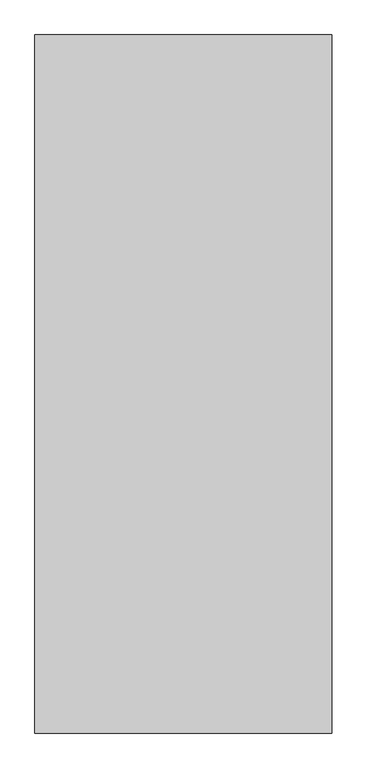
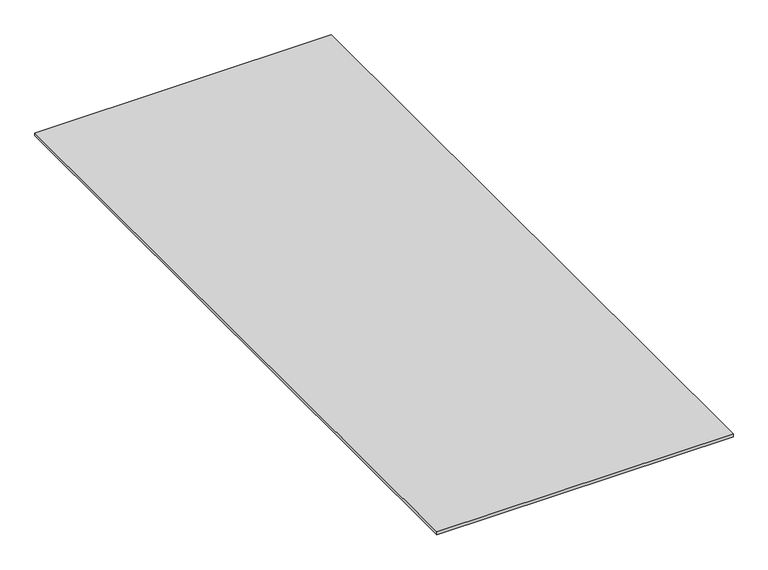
"""IFC4 building model written with IfcOpenShell, lengths in millimetres: proxy geometry, Фиброцементная плита LATONIT окрашенная : 10 мм."""

from ifc_helpers import new_model, si_unit, frame, origin, place, context, project, spatial, polyline, outline, extrude, source, transform, mapped, element, save


def generic_models_ba442aa3(model_context):
    return source(origin(), model_context, "Body", "SweptSolid", [
        extrude(outline(polyline([(961.5, 2260.0), (961.5, 0.0), (0.0, 0.0), (0.0, 2260.0), (961.5, 2260.0)])), frame((0.0, 0.0, 240.0), z_axis=(0.0, 0.0, 1.0), x_axis=(1.0, 0.0, 0.0)), (0.0, 0.0, 1.0), 10.0),
    ])


if __name__ == "__main__":
    model = new_model("IFC4")
    model_context = context("Model", 3, world=origin())
    ifc_project = project(units=[si_unit("LENGTHUNIT", "METRE", prefix="MILLI")], contexts=[model_context])
    site = spatial("IfcSite", under=ifc_project)
    building = spatial("IfcBuilding", under=site)
    placement = place(None, origin())
    generic_models_shape = generic_models_ba442aa3(model_context)
    element("IfcBuildingElementProxy", 1, Name="Фиброцементная плита LATONIT окрашенная : 10 мм", ObjectType="Фиброцементная плита LATONIT окрашенная : 10 мм", at=placement, inside=building, context=model_context, shape_type="MappedRepresentation", body=[
        mapped(generic_models_shape, transform((0.0, 0.0, 0.0), x_axis=(1.0, 0.0, 0.0), y_axis=(0.0, 1.0, 0.0), z_axis=(0.0, 0.0, 1.0))),
    ])
    save(model, "model.ifc")
